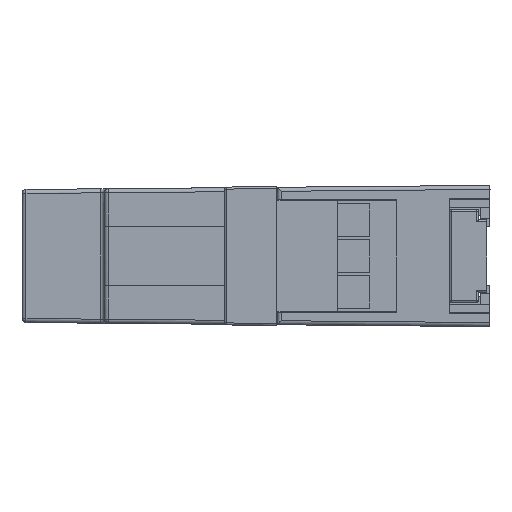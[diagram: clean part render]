
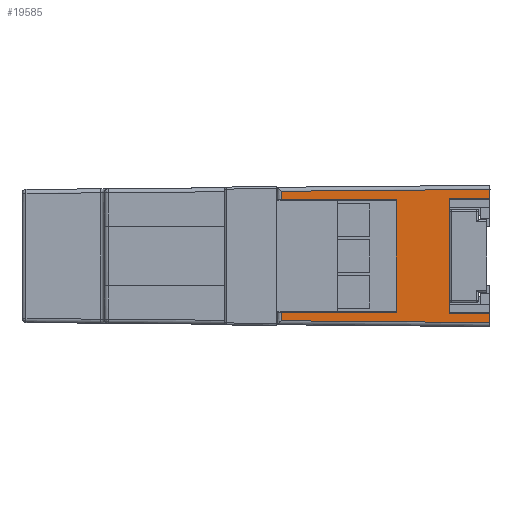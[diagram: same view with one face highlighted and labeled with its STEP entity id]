
A CAD part, left-side view. The second image highlights one B-rep face of the part: STEP entity #19585.
In plain terms, the highlighted planar face has unit normal (-1, 0, 0).
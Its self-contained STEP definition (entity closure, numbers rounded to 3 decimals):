
#102 = LINE ( 'NONE', #11018, #10067 ) ;
#511 = EDGE_CURVE ( 'NONE', #31079, #15495, #12116, .T. ) ;
#755 = CARTESIAN_POINT ( 'NONE',  ( -43.563, 3.196, -15.485 ) ) ;
#1161 = B_SPLINE_CURVE_WITH_KNOTS ( 'NONE', 3,
 ( #28696, #4174, #15072, #26004 ),
 .UNSPECIFIED., .F., .F.,
 ( 4, 4 ),
 ( 0., 1. ),
 .UNSPECIFIED. ) ;
#1413 = CARTESIAN_POINT ( 'NONE',  ( -43.563, -10., -0.25 ) ) ;
#1417 = EDGE_CURVE ( 'NONE', #34763, #34846, #12868, .T. ) ;
#1710 = CARTESIAN_POINT ( 'NONE',  ( -43.563, -10., -14.45 ) ) ;
#1814 = CARTESIAN_POINT ( 'NONE',  ( -43.563, -10., 0.9 ) ) ;
#2031 = VECTOR ( 'NONE', #34728, 1000. ) ;
#2679 = LINE ( 'NONE', #13585, #11530 ) ;
#3777 = CARTESIAN_POINT ( 'NONE',  ( -43.563, -5., -7.35 ) ) ;
#3957 = LINE ( 'NONE', #14862, #20014 ) ;
#4174 = CARTESIAN_POINT ( 'NONE',  ( -43.563, 7.267, 0.749 ) ) ;
#4374 = ORIENTED_EDGE ( 'NONE', *, *, #10527, .F. ) ;
#4749 = DIRECTION ( 'NONE',  ( 0., 0., -1. ) ) ;
#6215 = CARTESIAN_POINT ( 'NONE',  ( -43.563, 15.9, -15.374 ) ) ;
#6290 = CARTESIAN_POINT ( 'NONE',  ( -43.563, 2.95, -0.25 ) ) ;
#6326 = VECTOR ( 'NONE', #17172, 1000. ) ;
#6979 = CARTESIAN_POINT ( 'NONE',  ( -43.563, 15.9, -14.35 ) ) ;
#8707 = ORIENTED_EDGE ( 'NONE', *, *, #23018, .T. ) ;
#9030 = DIRECTION ( 'NONE',  ( 1., 0., 0. ) ) ;
#9224 = LINE ( 'NONE', #20116, #29540 ) ;
#10067 = VECTOR ( 'NONE', #21915, 1000. ) ;
#10107 = LINE ( 'NONE', #20992, #24408 ) ;
#10527 = EDGE_CURVE ( 'NONE', #20995, #16029, #18317, .T. ) ;
#10817 = ORIENTED_EDGE ( 'NONE', *, *, #20030, .F. ) ;
#10995 = EDGE_CURVE ( 'NONE', #16029, #35162, #30810, .T. ) ;
#11018 = CARTESIAN_POINT ( 'NONE',  ( -43.563, 1.6, -7.35 ) ) ;
#11530 = VECTOR ( 'NONE', #24528, 1000. ) ;
#11601 = VECTOR ( 'NONE', #14687, 1000. ) ;
#11655 = DIRECTION ( 'NONE',  ( 0., -1., -0.009 ) ) ;
#11696 = FACE_OUTER_BOUND ( 'NONE', #13130, .T. ) ;
#12116 = LINE ( 'NONE', #23045, #18624 ) ;
#12174 = EDGE_CURVE ( 'NONE', #28836, #33099, #2679, .T. ) ;
#12868 = LINE ( 'NONE', #23795, #2031 ) ;
#13130 = EDGE_LOOP ( 'NONE', ( #23105, #32481, #10817, #21582, #4374, #29562, #31994, #14313, #18106, #18115, #32595, #8707 ) ) ;
#13585 = CARTESIAN_POINT ( 'NONE',  ( -43.563, 15.9, -7.35 ) ) ;
#14313 = ORIENTED_EDGE ( 'NONE', *, *, #34171, .F. ) ;
#14687 = DIRECTION ( 'NONE',  ( 0., 0., -1. ) ) ;
#14862 = CARTESIAN_POINT ( 'NONE',  ( -43.563, 2.95, -14.45 ) ) ;
#15072 = CARTESIAN_POINT ( 'NONE',  ( -43.563, -1.367, 0.825 ) ) ;
#15495 = VERTEX_POINT ( 'NONE', #33339 ) ;
#16029 = VERTEX_POINT ( 'NONE', #1413 ) ;
#16702 = CARTESIAN_POINT ( 'NONE',  ( -43.563, 1.6, -0.35 ) ) ;
#17172 = DIRECTION ( 'NONE',  ( 0., 1., 0. ) ) ;
#18106 = ORIENTED_EDGE ( 'NONE', *, *, #25205, .F. ) ;
#18115 = ORIENTED_EDGE ( 'NONE', *, *, #1417, .F. ) ;
#18317 = LINE ( 'NONE', #29254, #25787 ) ;
#18624 = VECTOR ( 'NONE', #33967, 1000. ) ;
#19585 = ADVANCED_FACE ( 'NONE', ( #11696 ), #22614, .F. ) ;
#19921 = DIRECTION ( 'NONE',  ( 0., 1., 0. ) ) ;
#20014 = VECTOR ( 'NONE', #25796, 1000. ) ;
#20030 = EDGE_CURVE ( 'NONE', #35162, #30988, #28299, .T. ) ;
#20116 = CARTESIAN_POINT ( 'NONE',  ( -43.563, 2.95, -0.35 ) ) ;
#20992 = CARTESIAN_POINT ( 'NONE',  ( -43.563, 15.9, -15.114 ) ) ;
#20995 = VERTEX_POINT ( 'NONE', #1814 ) ;
#21478 = VECTOR ( 'NONE', #11655, 1000. ) ;
#21582 = ORIENTED_EDGE ( 'NONE', *, *, #10995, .F. ) ;
#21915 = DIRECTION ( 'NONE',  ( 0., 0., 1. ) ) ;
#22614 = PLANE ( 'NONE',  #31584 ) ;
#22729 = EDGE_CURVE ( 'NONE', #33099, #20995, #1161, .T. ) ;
#23018 = EDGE_CURVE ( 'NONE', #30992, #15495, #25267, .T. ) ;
#23045 = CARTESIAN_POINT ( 'NONE',  ( -43.563, -10., -15.275 ) ) ;
#23105 = ORIENTED_EDGE ( 'NONE', *, *, #511, .F. ) ;
#23795 = CARTESIAN_POINT ( 'NONE',  ( -43.563, 2.95, -14.35 ) ) ;
#24044 = CARTESIAN_POINT ( 'NONE',  ( -43.563, 15.9, 0.674 ) ) ;
#24408 = VECTOR ( 'NONE', #31942, 1000. ) ;
#24528 = DIRECTION ( 'NONE',  ( 0., 0., 1. ) ) ;
#25205 = EDGE_CURVE ( 'NONE', #34846, #32277, #102, .T. ) ;
#25267 = LINE ( 'NONE', #755, #21478 ) ;
#25787 = VECTOR ( 'NONE', #4749, 1000. ) ;
#25796 = DIRECTION ( 'NONE',  ( 0., -1., 0. ) ) ;
#26004 = CARTESIAN_POINT ( 'NONE',  ( -43.563, -10., 0.9 ) ) ;
#28299 = LINE ( 'NONE', #3777, #11601 ) ;
#28696 = CARTESIAN_POINT ( 'NONE',  ( -43.563, 15.9, 0.674 ) ) ;
#28836 = VERTEX_POINT ( 'NONE', #33138 ) ;
#29254 = CARTESIAN_POINT ( 'NONE',  ( -43.563, -10., -7.35 ) ) ;
#29540 = VECTOR ( 'NONE', #31064, 1000. ) ;
#29562 = ORIENTED_EDGE ( 'NONE', *, *, #22729, .F. ) ;
#30152 = EDGE_CURVE ( 'NONE', #30988, #31079, #3957, .T. ) ;
#30527 = CARTESIAN_POINT ( 'NONE',  ( -43.563, 1.6, -14.35 ) ) ;
#30731 = CARTESIAN_POINT ( 'NONE',  ( -43.563, -5., -14.45 ) ) ;
#30810 = LINE ( 'NONE', #6290, #6326 ) ;
#30988 = VERTEX_POINT ( 'NONE', #30731 ) ;
#30992 = VERTEX_POINT ( 'NONE', #6215 ) ;
#31064 = DIRECTION ( 'NONE',  ( 0., 1., 0. ) ) ;
#31079 = VERTEX_POINT ( 'NONE', #1710 ) ;
#31584 = AXIS2_PLACEMENT_3D ( 'NONE', #33547, #9030, #19921 ) ;
#31942 = DIRECTION ( 'NONE',  ( 0., 0., -1. ) ) ;
#31994 = ORIENTED_EDGE ( 'NONE', *, *, #12174, .F. ) ;
#32277 = VERTEX_POINT ( 'NONE', #16702 ) ;
#32481 = ORIENTED_EDGE ( 'NONE', *, *, #30152, .F. ) ;
#32595 = ORIENTED_EDGE ( 'NONE', *, *, #34320, .T. ) ;
#33099 = VERTEX_POINT ( 'NONE', #24044 ) ;
#33138 = CARTESIAN_POINT ( 'NONE',  ( -43.563, 15.9, -0.35 ) ) ;
#33339 = CARTESIAN_POINT ( 'NONE',  ( -43.563, -10., -15.6 ) ) ;
#33547 = CARTESIAN_POINT ( 'NONE',  ( -43.563, 15.9, 0.9 ) ) ;
#33967 = DIRECTION ( 'NONE',  ( 0., 0., -1. ) ) ;
#34171 = EDGE_CURVE ( 'NONE', #32277, #28836, #9224, .T. ) ;
#34320 = EDGE_CURVE ( 'NONE', #34763, #30992, #10107, .T. ) ;
#34728 = DIRECTION ( 'NONE',  ( 0., -1., 0. ) ) ;
#34763 = VERTEX_POINT ( 'NONE', #6979 ) ;
#34846 = VERTEX_POINT ( 'NONE', #30527 ) ;
#35161 = CARTESIAN_POINT ( 'NONE',  ( -43.563, -5., -0.25 ) ) ;
#35162 = VERTEX_POINT ( 'NONE', #35161 ) ;
